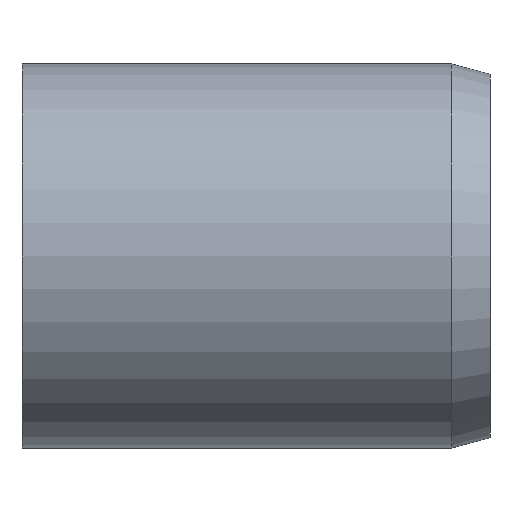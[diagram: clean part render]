
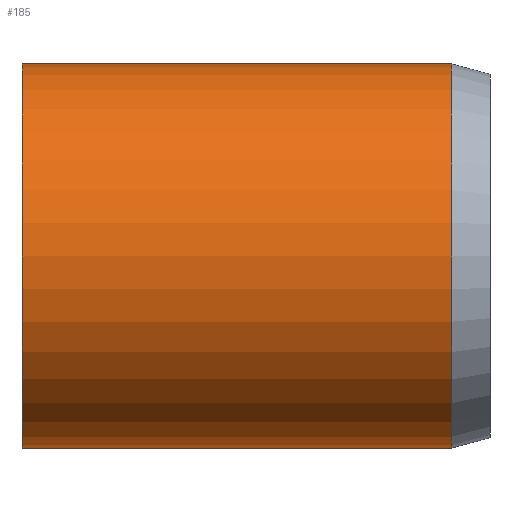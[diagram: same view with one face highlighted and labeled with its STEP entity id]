
A CAD part, left-side view. The second image highlights one B-rep face of the part: STEP entity #185.
In plain terms, the highlighted cylindrical face has radius 27.5 mm (diameter 55 mm), a partial arc.
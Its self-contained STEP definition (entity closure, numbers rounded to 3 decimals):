
#11 = CARTESIAN_POINT ( 'NONE',  ( 0., 5.5, -27.5 ) ) ;
#20 = LINE ( 'NONE', #379, #374 ) ;
#37 = DIRECTION ( 'NONE',  ( 0., 0., -1. ) ) ;
#43 = VECTOR ( 'NONE', #79, 1000. ) ;
#57 = DIRECTION ( 'NONE',  ( 0., -1., 0. ) ) ;
#64 = CIRCLE ( 'NONE', #191, 27.5 ) ;
#73 = VERTEX_POINT ( 'NONE', #207 ) ;
#75 = ORIENTED_EDGE ( 'NONE', *, *, #112, .F. ) ;
#79 = DIRECTION ( 'NONE',  ( 0., -1., 0. ) ) ;
#87 = CYLINDRICAL_SURFACE ( 'NONE', #177, 27.5 ) ;
#92 = CARTESIAN_POINT ( 'NONE',  ( 0., 5.5, 27.5 ) ) ;
#112 = EDGE_CURVE ( 'NONE', #252, #232, #383, .T. ) ;
#114 = DIRECTION ( 'NONE',  ( 0., 0., -1. ) ) ;
#116 = VERTEX_POINT ( 'NONE', #174 ) ;
#149 = CARTESIAN_POINT ( 'NONE',  ( 0., 67., 0. ) ) ;
#153 = AXIS2_PLACEMENT_3D ( 'NONE', #319, #391, #37 ) ;
#154 = LINE ( 'NONE', #295, #43 ) ;
#174 = CARTESIAN_POINT ( 'NONE',  ( 0., 67., 27.5 ) ) ;
#177 = AXIS2_PLACEMENT_3D ( 'NONE', #373, #399, #187 ) ;
#185 = ADVANCED_FACE ( 'NONE', ( #405 ), #87, .T. ) ;
#187 = DIRECTION ( 'NONE',  ( 0., 0., -1. ) ) ;
#191 = AXIS2_PLACEMENT_3D ( 'NONE', #149, #443, #114 ) ;
#207 = CARTESIAN_POINT ( 'NONE',  ( 0., 67., -27.5 ) ) ;
#214 = EDGE_CURVE ( 'NONE', #73, #232, #154, .T. ) ;
#221 = EDGE_LOOP ( 'NONE', ( #285, #281, #262, #75 ) ) ;
#232 = VERTEX_POINT ( 'NONE', #11 ) ;
#235 = EDGE_CURVE ( 'NONE', #116, #73, #64, .T. ) ;
#252 = VERTEX_POINT ( 'NONE', #92 ) ;
#262 = ORIENTED_EDGE ( 'NONE', *, *, #214, .T. ) ;
#281 = ORIENTED_EDGE ( 'NONE', *, *, #235, .T. ) ;
#284 = EDGE_CURVE ( 'NONE', #116, #252, #20, .T. ) ;
#285 = ORIENTED_EDGE ( 'NONE', *, *, #284, .F. ) ;
#295 = CARTESIAN_POINT ( 'NONE',  ( 0., 0., -27.5 ) ) ;
#319 = CARTESIAN_POINT ( 'NONE',  ( 0., 5.5, 0. ) ) ;
#373 = CARTESIAN_POINT ( 'NONE',  ( 0., 0., 0. ) ) ;
#374 = VECTOR ( 'NONE', #57, 1000. ) ;
#379 = CARTESIAN_POINT ( 'NONE',  ( 0., 0., 27.5 ) ) ;
#383 = CIRCLE ( 'NONE', #153, 27.5 ) ;
#391 = DIRECTION ( 'NONE',  ( 0., -1., 0. ) ) ;
#399 = DIRECTION ( 'NONE',  ( 0., -1., 0. ) ) ;
#405 = FACE_OUTER_BOUND ( 'NONE', #221, .T. ) ;
#443 = DIRECTION ( 'NONE',  ( 0., -1., 0. ) ) ;
